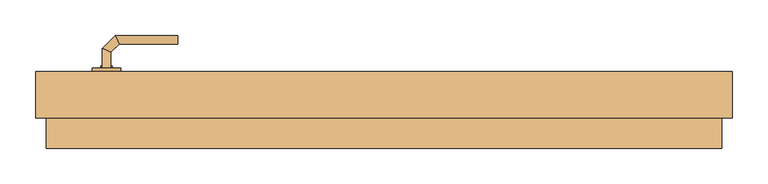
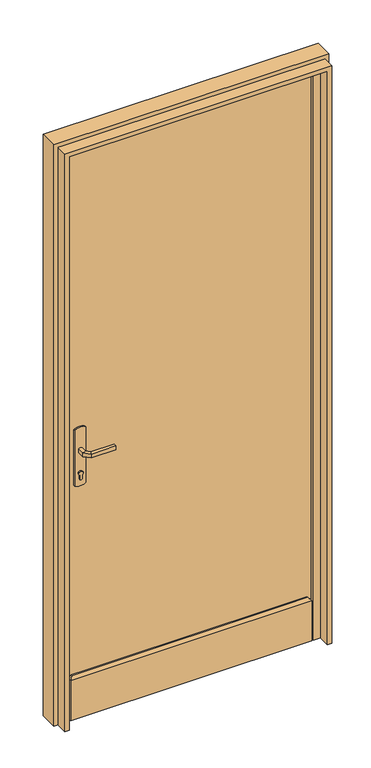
"""IFC4 building model written with IfcOpenShell, lengths in millimetres: door geometry, Porte d'entrée : PP Lisse (0.90 m x 2.15 m)."""

from ifc_helpers import new_model, si_unit, point, frame, frame_2d, origin, origin_with_axes, place, context, project, spatial, polyline, circle_curve, ellipse_curve, trimmed, segment, composite_curve, outline, extrude, faceted_brep, source, transform, mapped, element, save
from ifc_brep_helpers import plane_surface, cylinder_surface, advanced_brep


def door_064d3271(model_context):
    return source(origin(), model_context, "Body", "SolidModel", [
        extrude(outline(composite_curve([segment(trimmed(circle_curve(frame_2d((904.6410162, -400.0)), 40.0), [point((870.0, -420.0))], [point((870.0, -380.0))], False, "CARTESIAN"), True, "CONTINUOUS"), segment(polyline([(870.0, -380.0), (1080.0, -380.0)]), True, "CONTINUOUS"), segment(trimmed(circle_curve(frame_2d((1045.3589838, -400.0)), 40.0), [point((1080.0, -380.0))], [point((1080.0, -420.0))], False, "CARTESIAN"), True, "CONTINUOUS"), segment(polyline([(1080.0, -420.0), (870.0, -420.0)]), True, "CONTINUOUS")], self_intersect=False)), frame((0.0, 198.0, 0.0), z_axis=(0.0, 1.0, 0.0), x_axis=(0.0, 0.0, 1.0)), (0.0, 0.0, 1.0), 5.0),
        extrude(outline(composite_curve([segment(trimmed(circle_curve(frame_2d((1045.3589838, -400.0)), 40.0), [point((1080.0, -380.0))], [point((1080.0, -420.0))], False, "CARTESIAN"), True, "CONTINUOUS"), segment(polyline([(1080.0, -420.0), (870.0, -420.0)]), True, "CONTINUOUS"), segment(trimmed(circle_curve(frame_2d((904.6410162, -400.0)), 40.0), [point((870.0, -420.0))], [point((870.0, -380.0))], False, "CARTESIAN"), True, "CONTINUOUS"), segment(polyline([(870.0, -380.0), (1080.0, -380.0)]), True, "CONTINUOUS")], self_intersect=False)), frame((0.0, 143.0, 0.0), z_axis=(0.0, 1.0, 0.0), x_axis=(0.0, 0.0, 1.0)), (0.0, 0.0, 1.0), 5.0),
        advanced_brep(
        [(-406.0, 203.0, 1007.0), (-406.0, 203.0, 993.0), (-394.0, 203.0, 993.0), (-394.0, 203.0, 1007.0), (-394.0, 225.680388, 1007.0), (-406.0, 230.6509507, 1007.0), (-394.0, 225.680388, 993.0), (-406.0, 230.6509507, 993.0), (-382.6522273, 237.0281607, 1007.0), (-387.62279, 249.0281607, 1007.0), (-382.6522273, 237.0281607, 993.0), (-387.62279, 249.0281607, 993.0), (-299.9813594, 249.0281607, 1007.0), (-299.9813594, 237.0281607, 1007.0), (-299.9813594, 237.0281607, 993.0), (-299.9813594, 249.0281607, 993.0)],
        [
            (0, 1),
            (1, 2, circle_curve(frame((-400.0, 203.0, 1013.0457722), z_axis=(0.0, -1.0, 0.0), x_axis=(1.0, 0.0, 0.0)), 20.9244589)),
            (2, 3),
            (3, 0, circle_curve(frame((-400.0, 203.0, 986.9542278), z_axis=(0.0, -1.0, 0.0), x_axis=(1.0, 0.0, 0.0)), 20.9244589)),
            (3, 4),
            (4, 5, ellipse_curve(frame((-400.0, 228.1656693, 986.9542278), z_axis=(-0.3826834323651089, -0.9238795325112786, 0.0), x_axis=(0.9238795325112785, -0.3826834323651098, 0.0)), 22.6484711, 20.9244589)),
            (5, 0),
            (2, 6),
            (6, 4),
            (1, 7),
            (7, 6, ellipse_curve(frame((-400.0, 228.1656693, 1013.0457722), z_axis=(-0.3826834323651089, -0.9238795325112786, 0.0), x_axis=(0.9238795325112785, -0.3826834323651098, 0.0)), 22.6484711, 20.9244589)),
            (5, 7),
            (4, 8),
            (8, 9, ellipse_curve(frame((-385.1375087, 243.0281607, 986.9542278), z_axis=(-0.9238795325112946, -0.38268343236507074, 0.0), x_axis=(0.3826834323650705, -0.9238795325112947, 0.0)), 22.6484711, 20.9244589)),
            (9, 5),
            (6, 10),
            (10, 8),
            (7, 11),
            (11, 10, ellipse_curve(frame((-385.1375087, 243.0281607, 1013.0457722), z_axis=(-0.9238795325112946, -0.38268343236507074, 0.0), x_axis=(0.3826834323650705, -0.9238795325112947, 0.0)), 22.6484711, 20.9244589)),
            (9, 11),
            (12, 13, circle_curve(frame((-299.9813594, 243.0281607, 986.9542278), z_axis=(1.0, 0.0, 0.0), x_axis=(0.0, -1.0, 0.0)), 20.9244589)),
            (13, 14),
            (14, 15, circle_curve(frame((-299.9813594, 243.0281607, 1013.0457722), z_axis=(1.0, 0.0, 0.0), x_axis=(0.0, -1.0, 0.0)), 20.9244589)),
            (15, 12),
            (8, 13),
            (12, 9),
            (10, 14),
            (11, 15),
        ],
        [
            plane_surface(frame((-409.2195445, 203.0, 1000.0), z_axis=(0.0, -1.0, 0.0), x_axis=(0.0, 0.0, -1.0))),
            cylinder_surface(frame((-400.0, 203.0, 986.9542278), z_axis=(0.0, -1.0, 0.0), x_axis=(1.0, 0.0, 0.0)), 20.9244589),
            plane_surface(frame((-394.0, 203.0, 1007.0), z_axis=(1.0, 0.0, 0.0), x_axis=(0.0, 1.0, 0.0))),
            cylinder_surface(frame((-400.0, 203.0, 1013.0457722), z_axis=(0.0, -1.0, 0.0), x_axis=(1.0, 0.0, 0.0)), 20.9244589),
            plane_surface(frame((-406.0, 203.0, 993.0), z_axis=(-1.0, 0.0, 0.0), x_axis=(0.0, 1.0, 0.0))),
            cylinder_surface(frame((-400.0, 228.1656693, 986.9542278), z_axis=(-0.7071067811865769, -0.7071067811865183, 0.0), x_axis=(0.7071067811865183, -0.7071067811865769, 0.0)), 20.9244589),
            plane_surface(frame((-394.0, 225.680388, 1007.0), z_axis=(0.7071067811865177, -0.7071067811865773, 0.0), x_axis=(0.7071067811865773, 0.7071067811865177, 0.0))),
            cylinder_surface(frame((-400.0, 228.1656693, 1013.0457722), z_axis=(-0.7071067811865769, -0.7071067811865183, 0.0), x_axis=(0.7071067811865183, -0.7071067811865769, 0.0)), 20.9244589),
            plane_surface(frame((-406.0, 230.6509507, 993.0), z_axis=(-0.7071067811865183, 0.7071067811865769, 0.0), x_axis=(0.7071067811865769, 0.7071067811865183, 0.0))),
            plane_surface(frame((-299.9813594, 243.0281607, 990.7804555), z_axis=(1.0, 0.0, 0.0), x_axis=(0.0, -1.0, 0.0))),
            cylinder_surface(frame((-385.1375087, 243.0281607, 986.9542278), z_axis=(-1.0, 0.0, 0.0), x_axis=(0.0, -1.0, 0.0)), 20.9244589),
            plane_surface(frame((-382.6522273, 237.0281607, 1007.0), z_axis=(0.0, -1.0, 0.0), x_axis=(1.0, 0.0, 0.0))),
            cylinder_surface(frame((-385.1375087, 243.0281607, 1013.0457722), z_axis=(-1.0, 0.0, 0.0), x_axis=(0.0, -1.0, 0.0)), 20.9244589),
            plane_surface(frame((-387.62279, 249.0281607, 993.0), z_axis=(0.0, 1.0, 0.0), x_axis=(1.0, 0.0, 0.0))),
        ],
        [
            (0, [[1, 2, 3, 4]]),
            (1, [[5, 6, 7, -4]]),
            (2, [[8, 9, -5, -3]]),
            (3, [[10, 11, -8, -2]]),
            (4, [[-7, 12, -10, -1]]),
            (5, [[13, 14, 15, -6]]),
            (6, [[16, 17, -13, -9]]),
            (7, [[18, 19, -16, -11]]),
            (8, [[-15, 20, -18, -12]]),
            (9, [[21, 22, 23, 24]]),
            (10, [[25, -21, 26, -14]]),
            (11, [[27, -22, -25, -17]]),
            (12, [[28, -23, -27, -19]]),
            (13, [[-26, -24, -28, -20]]),
        ],
    ),
        advanced_brep(
        [(-394.0, 143.0, 993.0), (-406.0, 143.0, 993.0), (-406.0, 143.0, 1007.0), (-394.0, 143.0, 1007.0), (-394.0, 120.5147955, 1007.0), (-394.0, 120.5147955, 993.0), (-406.0, 115.5442327, 1007.0), (-406.0, 115.5442327, 993.0), (-382.5147186, 109.0295141, 1007.0), (-382.5147186, 109.0295141, 993.0), (-387.4852814, 97.0295141, 1007.0), (-387.4852814, 97.0295141, 993.0), (-299.9542164, 109.0295141, 993.0), (-299.9542164, 109.0295141, 1007.0), (-299.9542164, 97.0295141, 1007.0), (-299.9542164, 97.0295141, 993.0)],
        [
            (0, 1, circle_curve(frame((-400.0, 143.0, 1013.0457722), z_axis=(0.0, 1.0, 0.0), x_axis=(-1.0, 0.0, 0.0)), 20.9244589)),
            (1, 2),
            (2, 3, circle_curve(frame((-400.0, 143.0, 986.9542278), z_axis=(0.0, 1.0, 0.0), x_axis=(-1.0, 0.0, 0.0)), 20.9244589)),
            (3, 0),
            (3, 4),
            (4, 5),
            (5, 0),
            (2, 6),
            (6, 4, ellipse_curve(frame((-400.0, 118.0295141, 986.9542278), z_axis=(-0.3826834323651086, 0.923879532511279, 0.0), x_axis=(0.9238795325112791, 0.3826834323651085, 0.0)), 22.6484711, 20.9244589)),
            (1, 7),
            (7, 6),
            (5, 7, ellipse_curve(frame((-400.0, 118.0295141, 1013.0457722), z_axis=(-0.3826834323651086, 0.923879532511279, 0.0), x_axis=(0.9238795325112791, 0.3826834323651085, 0.0)), 22.6484711, 20.9244589)),
            (4, 8),
            (8, 9),
            (9, 5),
            (6, 10),
            (10, 8, ellipse_curve(frame((-385.0, 103.0295141, 986.9542278), z_axis=(-0.9238795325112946, 0.38268343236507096, 0.0), x_axis=(0.3826834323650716, 0.9238795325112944, 0.0)), 22.6484711, 20.9244589)),
            (7, 11),
            (11, 10),
            (9, 11, ellipse_curve(frame((-385.0, 103.0295141, 1013.0457722), z_axis=(-0.9238795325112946, 0.38268343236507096, 0.0), x_axis=(0.3826834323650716, 0.9238795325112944, 0.0)), 22.6484711, 20.9244589)),
            (12, 13),
            (13, 14, circle_curve(frame((-299.9542164, 103.0295141, 986.9542278), z_axis=(1.0, 0.0, 0.0), x_axis=(0.0, -1.0, 0.0)), 20.9244589)),
            (14, 15),
            (15, 12, circle_curve(frame((-299.9542164, 103.0295141, 1013.0457722), z_axis=(1.0, 0.0, 0.0), x_axis=(0.0, -1.0, 0.0)), 20.9244589)),
            (8, 13),
            (12, 9),
            (10, 14),
            (11, 15),
        ],
        [
            plane_surface(frame((-409.2195445, 143.0, 1000.0), z_axis=(0.0, 1.0, 0.0), x_axis=(0.0, 0.0, 1.0))),
            plane_surface(frame((-394.0, 143.0, 993.0), z_axis=(1.0, 0.0, 0.0), x_axis=(0.0, -1.0, 0.0))),
            cylinder_surface(frame((-400.0, 143.0, 986.9542278), z_axis=(0.0, 1.0, 0.0), x_axis=(-1.0, 0.0, 0.0)), 20.9244589),
            plane_surface(frame((-406.0, 143.0, 1007.0), z_axis=(-1.0, 0.0, 0.0), x_axis=(0.0, -1.0, 0.0))),
            cylinder_surface(frame((-400.0, 143.0, 1013.0457722), z_axis=(0.0, 1.0, 0.0), x_axis=(-1.0, 0.0, 0.0)), 20.9244589),
            plane_surface(frame((-394.0, 120.5147955, 993.0), z_axis=(0.7071067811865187, 0.7071067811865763, 0.0), x_axis=(0.7071067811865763, -0.7071067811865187, 0.0))),
            cylinder_surface(frame((-400.0, 118.0295141, 986.9542278), z_axis=(-0.7071067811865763, 0.7071067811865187, 0.0), x_axis=(-0.7071067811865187, -0.7071067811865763, 0.0)), 20.9244589),
            plane_surface(frame((-406.0, 115.5442327, 1007.0), z_axis=(-0.7071067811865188, -0.7071067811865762, 0.0), x_axis=(0.7071067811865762, -0.7071067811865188, 0.0))),
            cylinder_surface(frame((-400.0, 118.0295141, 1013.0457722), z_axis=(-0.7071067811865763, 0.7071067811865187, 0.0), x_axis=(-0.7071067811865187, -0.7071067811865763, 0.0)), 20.9244589),
            plane_surface(frame((-299.9542164, 103.0295141, 990.7804555), z_axis=(1.0, 0.0, 0.0), x_axis=(0.0, -1.0, 0.0))),
            plane_surface(frame((-382.5147186, 109.0295141, 993.0), z_axis=(0.0, 1.0, 0.0), x_axis=(1.0, 0.0, 0.0))),
            cylinder_surface(frame((-385.0, 103.0295141, 986.9542278), z_axis=(-1.0, 0.0, 0.0), x_axis=(0.0, -1.0, 0.0)), 20.9244589),
            plane_surface(frame((-387.4852814, 97.0295141, 1007.0), z_axis=(0.0, -1.0, 0.0), x_axis=(1.0, 0.0, 0.0))),
            cylinder_surface(frame((-385.0, 103.0295141, 1013.0457722), z_axis=(-1.0, 0.0, 0.0), x_axis=(0.0, -1.0, 0.0)), 20.9244589),
        ],
        [
            (0, [[1, 2, 3, 4]]),
            (1, [[5, 6, 7, -4]]),
            (2, [[8, 9, -5, -3]]),
            (3, [[10, 11, -8, -2]]),
            (4, [[-7, 12, -10, -1]]),
            (5, [[13, 14, 15, -6]]),
            (6, [[16, 17, -13, -9]]),
            (7, [[18, 19, -16, -11]]),
            (8, [[-15, 20, -18, -12]]),
            (9, [[21, 22, 23, 24]]),
            (10, [[25, -21, 26, -14]]),
            (11, [[27, -22, -25, -17]]),
            (12, [[28, -23, -27, -19]]),
            (13, [[-26, -24, -28, -20]]),
        ],
    ),
        extrude(outline(composite_curve([segment(polyline([(908.0464422, -405.0), (895.0, -405.0)]), True, "CONTINUOUS"), segment(trimmed(circle_curve(frame_2d((895.0, -400.0)), 5.0), [point((895.0, -405.0))], [point((895.0, -395.0))], False, "CARTESIAN"), True, "CONTINUOUS"), segment(polyline([(895.0, -395.0), (908.0464422, -395.0)]), True, "CONTINUOUS"), segment(trimmed(circle_curve(frame_2d((914.2914402, -400.0)), 8.0), [point((908.0464422, -395.0))], [point((908.0464422, -405.0))], False, "CARTESIAN"), True, "CONTINUOUS")], self_intersect=False)), frame((0.0, 203.0, 0.0), z_axis=(0.0, 1.0, 0.0), x_axis=(0.0, 0.0, 1.0)), (0.0, 0.0, 1.0), 3.0),
        extrude(outline(composite_curve([segment(polyline([(908.0464422, -405.0), (895.0, -405.0)]), True, "CONTINUOUS"), segment(trimmed(circle_curve(frame_2d((895.0, -400.0)), 5.0), [point((895.0, -405.0))], [point((895.0, -395.0))], False, "CARTESIAN"), True, "CONTINUOUS"), segment(polyline([(895.0, -395.0), (908.0464422, -395.0)]), True, "CONTINUOUS"), segment(trimmed(circle_curve(frame_2d((914.2914402, -400.0)), 8.0), [point((908.0464422, -395.0))], [point((908.0464422, -405.0))], False, "CARTESIAN"), True, "CONTINUOUS")], self_intersect=False)), frame((0.0, 138.0, 0.0), z_axis=(0.0, 1.0, 0.0), x_axis=(0.0, 0.0, 1.0)), (0.0, 0.0, 1.0), 5.0),
        extrude(outline(polyline([(440.0, 198.0), (440.0, 148.0), (-460.0, 148.0), (-460.0, 198.0), (440.0, 198.0)])), origin_with_axes(), (0.0, 0.0, 1.0), 2150.0),
        faceted_brep([(-440.0, 148.0, 0.0), (-440.0, 148.0, 150.0), (-430.0, 148.0, 160.0), (410.0, 148.0, 160.0), (420.0, 148.0, 150.0), (420.0, 148.0, 0.0), (420.0, 133.0, 0.0), (420.0, 133.0, 150.0), (-440.0, 133.0, 150.0), (-440.0, 133.0, 0.0), (-430.0, 143.0, 160.0), (410.0, 143.0, 160.0)], [[[0, 1, 2, 3, 4, 5]], [[6, 7, 8, 9]], [[9, 8, 1, 0]], [[5, 6, 9, 0]], [[5, 4, 7, 6]], [[2, 10, 11, 3]], [[7, 4, 3, 11]], [[11, 10, 8, 7]], [[10, 2, 1, 8]]]),
        faceted_brep([(-500.0, 133.0, 0.0), (-500.0, 198.0, 0.0), (-460.0, 198.0, 0.0), (-460.0, 148.0, 0.0), (-445.0, 148.0, 0.0), (-445.0, 133.0, 0.0), (-445.0, 133.0, 2135.0), (425.0, 133.0, 2135.0), (425.0, 133.0, 0.0), (480.0, 133.0, 0.0), (480.0, 133.0, 2190.0), (-500.0, 133.0, 2190.0), (-445.0, 148.0, 2135.0), (-460.0, 148.0, 2150.0), (440.0, 148.0, 2150.0), (440.0, 148.0, 0.0), (425.0, 148.0, 0.0), (425.0, 148.0, 2135.0), (-460.0, 198.0, 2150.0), (-500.0, 198.0, 2190.0), (480.0, 198.0, 2190.0), (480.0, 198.0, 0.0), (440.0, 198.0, 0.0), (440.0, 198.0, 2150.0)], [[[0, 1, 2, 3, 4, 5]], [[5, 6, 7, 8, 9, 10, 11, 0]], [[4, 12, 6, 5]], [[3, 13, 14, 15, 16, 17, 12, 4]], [[2, 18, 13, 3]], [[1, 19, 20, 21, 22, 23, 18, 2]], [[0, 11, 19, 1]], [[10, 9, 21, 20]], [[9, 8, 16, 15, 22, 21]], [[17, 16, 8, 7]], [[23, 22, 15, 14]], [[12, 17, 7, 6]], [[18, 23, 14, 13]], [[11, 10, 20, 19]]]),
        extrude(outline(polyline([(0.0, -470.0), (2160.0, -470.0), (2160.0, 450.0), (0.0, 450.0), (0.0, 465.0), (2175.0, 465.0), (2175.0, -485.0), (0.0, -485.0), (0.0, -470.0)])), frame((0.0, 90.0, 0.0), z_axis=(0.0, 1.0, 0.0), x_axis=(0.0, 0.0, 1.0)), (0.0, 0.0, 1.0), 43.0),
    ])


if __name__ == "__main__":
    model = new_model("IFC4")
    model_context = context("Model", 3, world=origin())
    ifc_project = project(units=[si_unit("LENGTHUNIT", "METRE", prefix="MILLI")], contexts=[model_context])
    site = spatial("IfcSite", under=ifc_project)
    building = spatial("IfcBuilding", under=site)
    placement = place(None, origin())
    door_shape = door_064d3271(model_context)
    element("IfcDoor", 1, ObjectType="Porte d'entrée : PP Lisse (0.90 m x 2.15 m)", at=placement, inside=building, context=model_context, shape_type="MappedRepresentation", body=[
        mapped(door_shape, transform((0.0, 0.0, 0.0), x_axis=(1.0, 0.0, 0.0), y_axis=(0.0, 1.0, 0.0), z_axis=(0.0, 0.0, 1.0))),
    ])
    save(model, "model.ifc")
